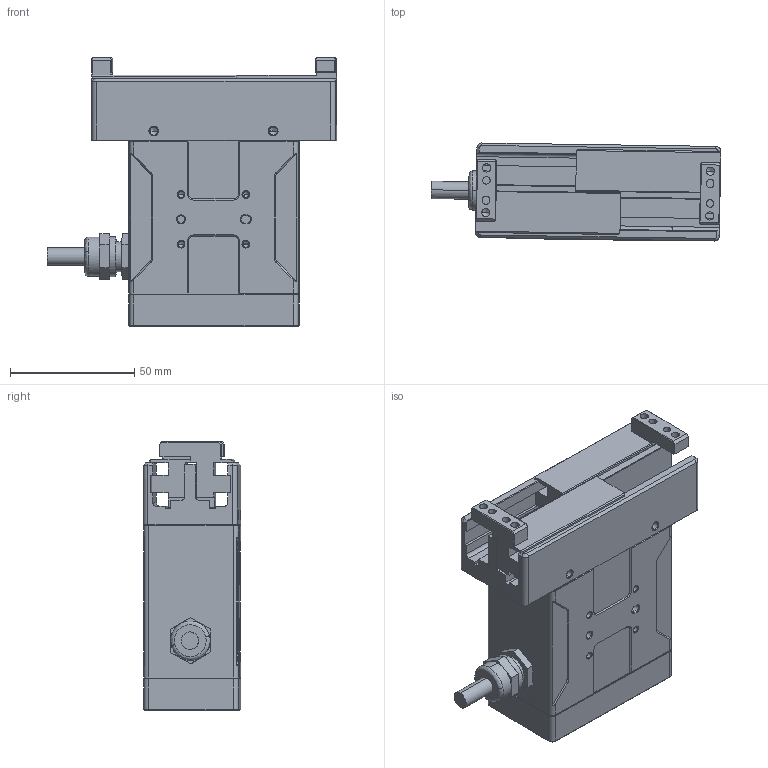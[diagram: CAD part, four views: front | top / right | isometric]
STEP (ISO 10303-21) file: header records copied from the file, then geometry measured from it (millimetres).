
FILE_DESCRIPTION (( 'STEP AP214' ), '1' );
FILE_NAME ('Z-EFG-80ALL-LMC-12F.STEP', '2024-09-23T01:12:40', ( '' ), ( '' ), 'SwSTEP 2.0', 'SolidWorks 2022', '' );
FILE_SCHEMA (( 'AUTOMOTIVE_DESIGN' ));
Length unit declared in the file: millimetre
Products named in the file (3): EFG-80ㄗ俋褲ㄘ; Z-EFG-80ALL-LMC-12F; EFG-80ㄗ忒硌ㄘ
Assembly tree (3 placements, depth 2):
  Z-EFG-80ALL-LMC-12F
    EFG-80ㄗ俋褲ㄘ
    EFG-80ㄗ忒硌ㄘ  x2
Bounding box: 116.29 x 39.36 x 108 mm (x, y, z)
Volume: 264552.2 mm3; surface area: 57417 mm2
Topology: 5 solids, 5 shells, 505 faces, 1292 edges, 800 vertices
Faces by surface type: plane 268, cone 117, cylinder 108, bspline 12
Entity records: 16926 total; most frequent: CARTESIAN_POINT 3477, DIRECTION 2229, ORIENTED_EDGE 2220, EDGE_CURVE 1110, AXIS2_PLACEMENT_3D 761, VECTOR 707, VERTEX_POINT 707, LINE 707
